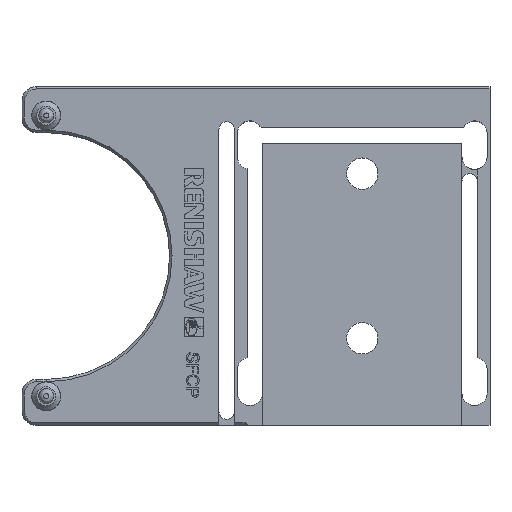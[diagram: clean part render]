
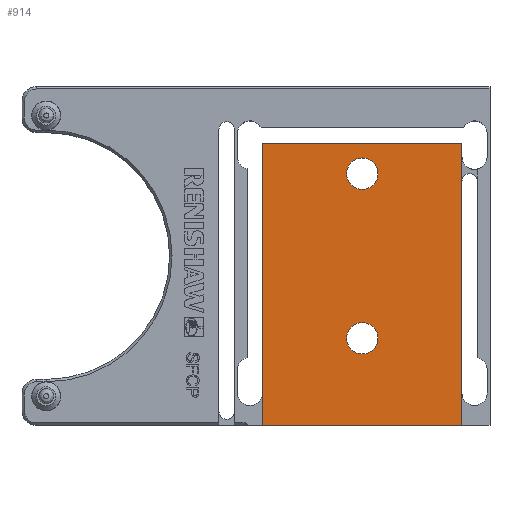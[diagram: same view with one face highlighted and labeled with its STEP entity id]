
A CAD part, top view. The second image highlights one B-rep face of the part: STEP entity #914.
In plain terms, the highlighted planar face has unit normal (0, 0, 1).
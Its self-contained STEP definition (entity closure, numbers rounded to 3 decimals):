
#277=LINE('',#5009,#445);
#278=LINE('',#5012,#446);
#279=LINE('',#5014,#447);
#280=LINE('',#5016,#448);
#445=VECTOR('',#3397,1.);
#446=VECTOR('',#3398,1.);
#447=VECTOR('',#3399,1.);
#448=VECTOR('',#3400,1.);
#833=FACE_BOUND('',#1206,.T.);
#834=FACE_BOUND('',#1207,.T.);
#835=FACE_BOUND('',#1208,.T.);
#914=ADVANCED_FACE('',(#833,#834,#835),#1008,.T.);
#1008=PLANE('',#3088);
#1206=EDGE_LOOP('',(#1661));
#1207=EDGE_LOOP('',(#1662));
#1208=EDGE_LOOP('',(#1663,#1664,#1665,#1666));
#1661=ORIENTED_EDGE('',*,*,#2800,.T.);
#1662=ORIENTED_EDGE('',*,*,#2801,.T.);
#1663=ORIENTED_EDGE('',*,*,#2802,.F.);
#1664=ORIENTED_EDGE('',*,*,#2803,.T.);
#1665=ORIENTED_EDGE('',*,*,#2804,.T.);
#1666=ORIENTED_EDGE('',*,*,#2805,.F.);
#2425=VERTEX_POINT('',#5006);
#2426=VERTEX_POINT('',#5008);
#2427=VERTEX_POINT('',#5010);
#2428=VERTEX_POINT('',#5011);
#2429=VERTEX_POINT('',#5013);
#2430=VERTEX_POINT('',#5015);
#2800=EDGE_CURVE('',#2425,#2425,#2972,.T.);
#2801=EDGE_CURVE('',#2426,#2426,#2973,.T.);
#2802=EDGE_CURVE('',#2427,#2428,#277,.T.);
#2803=EDGE_CURVE('',#2427,#2429,#278,.T.);
#2804=EDGE_CURVE('',#2429,#2430,#279,.T.);
#2805=EDGE_CURVE('',#2428,#2430,#280,.T.);
#2972=CIRCLE('',#3086,3.25);
#2973=CIRCLE('',#3087,3.25);
#3086=AXIS2_PLACEMENT_3D('',#5005,#3393,#3394);
#3087=AXIS2_PLACEMENT_3D('',#5007,#3395,#3396);
#3088=AXIS2_PLACEMENT_3D('',#5017,#3401,#3402);
#3393=DIRECTION('',(0.,0.,-1.));
#3394=DIRECTION('',(-1.,0.,0.));
#3395=DIRECTION('',(0.,0.,-1.));
#3396=DIRECTION('',(-1.,0.,0.));
#3397=DIRECTION('',(-1.,0.,0.));
#3398=DIRECTION('',(0.,1.,0.));
#3399=DIRECTION('',(-1.,0.,0.));
#3400=DIRECTION('',(0.,1.,0.));
#3401=DIRECTION('',(0.,0.,1.));
#3402=DIRECTION('',(1.,0.,0.));
#5005=CARTESIAN_POINT('',(65.3,-17.,-28.35));
#5006=CARTESIAN_POINT('',(62.05,-17.,-28.35));
#5007=CARTESIAN_POINT('',(65.3,17.,-28.35));
#5008=CARTESIAN_POINT('',(62.05,17.,-28.35));
#5009=CARTESIAN_POINT('',(85.9,-35.,-28.35));
#5010=CARTESIAN_POINT('',(85.9,-35.,-28.35));
#5011=CARTESIAN_POINT('',(44.7,-35.,-28.35));
#5012=CARTESIAN_POINT('',(85.9,-35.,-28.35));
#5013=CARTESIAN_POINT('',(85.9,23.3,-28.35));
#5014=CARTESIAN_POINT('',(85.9,23.3,-28.35));
#5015=CARTESIAN_POINT('',(44.7,23.3,-28.35));
#5016=CARTESIAN_POINT('',(44.7,-35.,-28.35));
#5017=CARTESIAN_POINT('',(85.9,-35.,-28.35));
